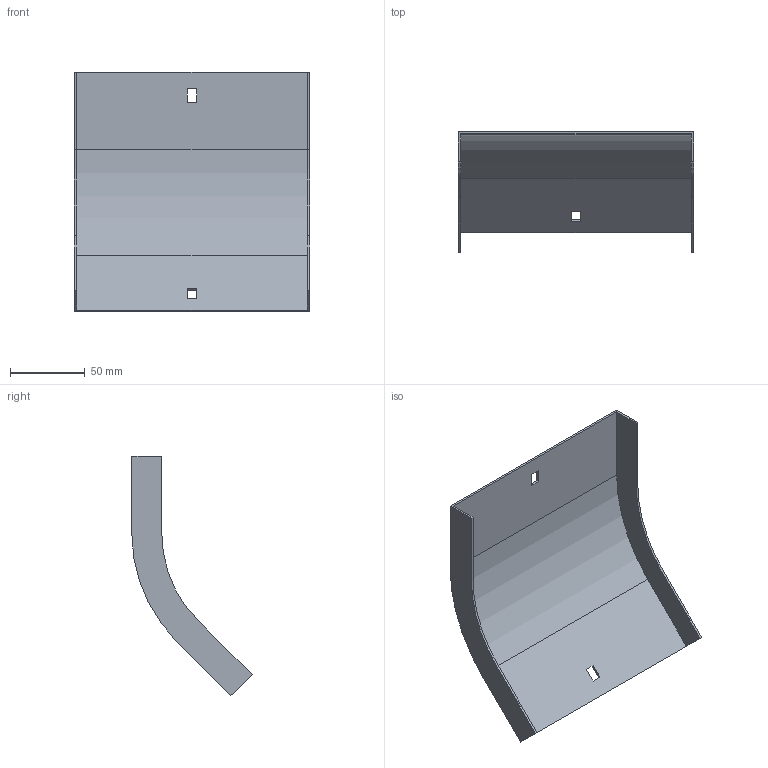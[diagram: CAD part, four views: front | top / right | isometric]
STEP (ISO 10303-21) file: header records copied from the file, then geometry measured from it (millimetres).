
FILE_DESCRIPTION (( 'STEP AP214' ), '1' );
FILE_NAME ('34G1B150.step', '2025-02-21T12:42:49', ( '' ), ( '' ), 'SwSTEP 2.0', 'SolidWorks 2023', '' );
FILE_SCHEMA (( 'AUTOMOTIVE_DESIGN' ));
Length unit declared in the file: millimetre
Products named in the file (1): 34G1B150
Bounding box: 157 x 80.32 x 159.76 mm (x, y, z)
Volume: 52411.4 mm3; surface area: 71059.9 mm2
Topology: 1 solids, 1 shells, 26 faces, 72 edges, 48 vertices
Faces by surface type: plane 22, cylinder 4
Entity records: 855 total; most frequent: CARTESIAN_POINT 147, ORIENTED_EDGE 144, DIRECTION 134, EDGE_CURVE 72, LINE 64, VECTOR 64, VERTEX_POINT 48, AXIS2_PLACEMENT_3D 35
